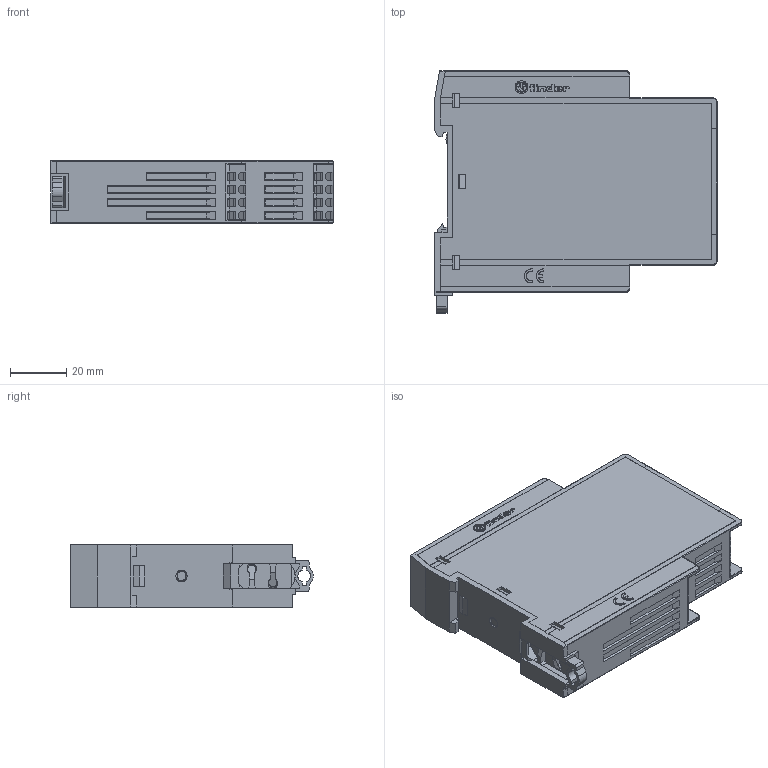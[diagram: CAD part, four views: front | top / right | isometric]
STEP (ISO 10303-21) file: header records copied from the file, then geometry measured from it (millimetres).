
FILE_DESCRIPTION(('STEP AP214'),'2;1');
FILE_NAME('7S_6_catalogo_OK.stp','2011-10-28T08:06:29',(''),(''),'2007.1.106','THINKDESIGN','');
FILE_SCHEMA(('AUTOMOTIVE_DESIGN'));
Products named in the file (1): None
Bounding box: 100.3 x 86.25 x 22.5 mm (x, y, z)
Surface area: 46269.4 mm2 (no closed solid volume)
Topology: 0 solids, 0 shells, 1443 faces, 8687 edges, 8687 vertices
Faces by surface type: plane 898, cylinder 362, bspline 183
Full cylindrical faces by diameter (mm): 3 x2
Entity records: 88864 total; most frequent: CARTESIAN_POINT 28734, DIRECTION 10291, COMPOSITE_CURVE_SEGMENT 8671, TRIMMED_CURVE 7148, VECTOR 6525, LINE 6525, AXIS2_PLACEMENT_3D 1883, OUTER_BOUNDARY_CURVE 1443
